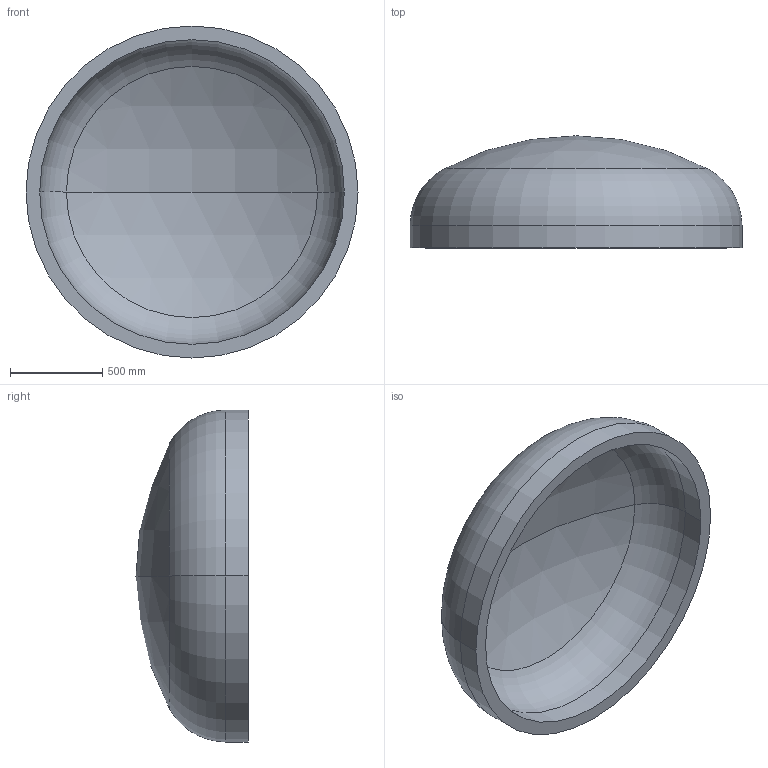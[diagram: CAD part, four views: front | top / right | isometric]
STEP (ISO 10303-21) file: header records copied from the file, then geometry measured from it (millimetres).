
FILE_DESCRIPTION (( 'STEP AP203' ), '1' );
FILE_NAME ('DIN 28013 Korbbogenform_-_Boden DIN 28013 - 1800 x 120 - I - s=74.step', '2016-07-01T12:39:01', ( '' ), ( '' ), 'SwSTEP 2.0', 'SolidWorks 2013', '' );
FILE_SCHEMA (( 'CONFIG_CONTROL_DESIGN' ));
Length unit declared in the file: millimetre
Products named in the file (1): DIN 28013 Korbbogenform_-_Boden DIN 28013 - 1800 x 120 - I - s=74
Bounding box: 1800 x 607.54 x 1800 mm (x, y, z)
Volume: 295038252.9 mm3; surface area: 8386730.3 mm2
Topology: 1 solids, 1 shells, 13 faces, 24 edges, 14 vertices
Faces by surface type: torus 4, cylinder 4, sphere 4, plane 1
Entity records: 407 total; most frequent: DIRECTION 72, CARTESIAN_POINT 52, ORIENTED_EDGE 48, AXIS2_PLACEMENT_3D 34, EDGE_CURVE 24, CIRCLE 20, VERTEX_POINT 14, EDGE_LOOP 14
